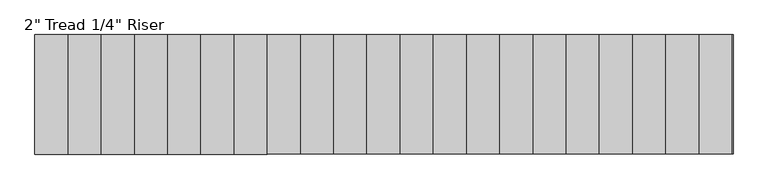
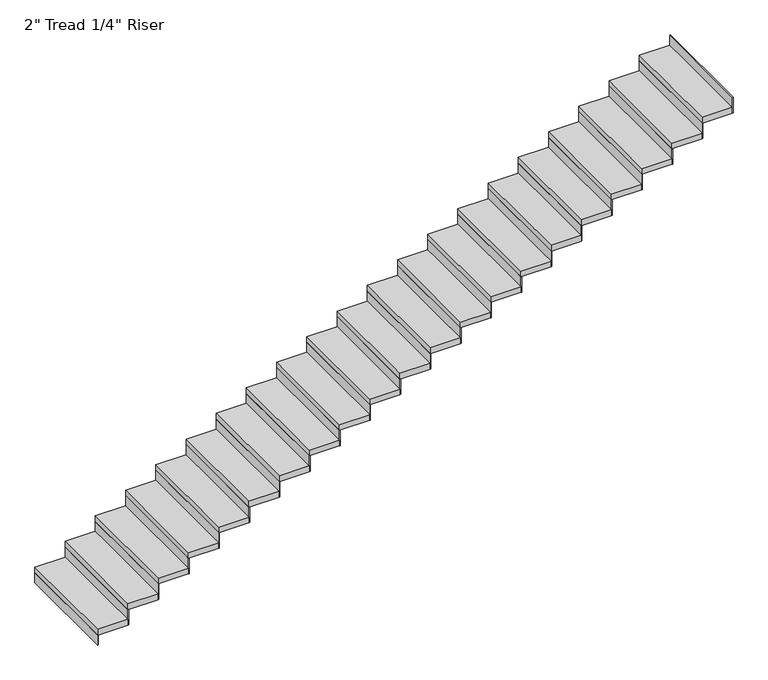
"""IFC4 building model written with IfcOpenShell, lengths in millimetres: stair flight geometry."""

from ifc_helpers import new_model, si_unit, frame, origin, origin_with_axes, place, context, project, spatial, polyline, outline, extrude, source, transform, mapped, element, save


def stair_flight_2194d3fa(model_context):
    return source(origin(), model_context, "Body", "SweptSolid", [
        extrude(outline(polyline([(60465.2405484, 52176.6739583), (60458.8905484, 52176.6739583), (60458.8905484, 53091.0739583), (60465.2405484, 53091.0739583), (60465.2405484, 52176.6739583)])), origin_with_axes(), (0.0, 0.0, 1.0), 87.7454545),
        extrude(outline(polyline([(60712.8905484, 53091.0739583), (60712.8905484, 52176.6739583), (60458.8905484, 52176.6739583), (60458.8905484, 53091.0739583), (60712.8905484, 53091.0739583)])), frame((0.0, 0.0, 87.7454545), z_axis=(0.0, 0.0, 1.0), x_axis=(1.0, 0.0, 0.0)), (0.0, 0.0, 1.0), 50.8),
        extrude(outline(polyline([(60719.2405484, 52176.6739583), (60712.8905484, 52176.6739583), (60712.8905484, 53091.0739583), (60719.2405484, 53091.0739583), (60719.2405484, 52176.6739583)])), frame((0.0, 0.0, 87.7454545), z_axis=(0.0, 0.0, 1.0), x_axis=(1.0, 0.0, 0.0)), (0.0, 0.0, 1.0), 138.5454545),
        extrude(outline(polyline([(60966.8905484, 53091.0739583), (60966.8905484, 52176.6739583), (60712.8905484, 52176.6739583), (60712.8905484, 53091.0739583), (60966.8905484, 53091.0739583)])), frame((0.0, 0.0, 226.2909091), z_axis=(0.0, 0.0, 1.0), x_axis=(1.0, 0.0, 0.0)), (0.0, 0.0, 1.0), 50.8),
        extrude(outline(polyline([(60973.2405484, 52176.6739583), (60966.8905484, 52176.6739583), (60966.8905484, 53091.0739583), (60973.2405484, 53091.0739583), (60973.2405484, 52176.6739583)])), frame((0.0, 0.0, 226.2909091), z_axis=(0.0, 0.0, 1.0), x_axis=(1.0, 0.0, 0.0)), (0.0, 0.0, 1.0), 138.5454545),
        extrude(outline(polyline([(61220.8905484, 53091.0739583), (61220.8905484, 52176.6739583), (60966.8905484, 52176.6739583), (60966.8905484, 53091.0739583), (61220.8905484, 53091.0739583)])), frame((0.0, 0.0, 364.8363636), z_axis=(0.0, 0.0, 1.0), x_axis=(1.0, 0.0, 0.0)), (0.0, 0.0, 1.0), 50.8),
        extrude(outline(polyline([(61227.2405484, 52176.6739583), (61220.8905484, 52176.6739583), (61220.8905484, 53091.0739583), (61227.2405484, 53091.0739583), (61227.2405484, 52176.6739583)])), frame((0.0, 0.0, 364.8363636), z_axis=(0.0, 0.0, 1.0), x_axis=(1.0, 0.0, 0.0)), (0.0, 0.0, 1.0), 138.5454545),
        extrude(outline(polyline([(61474.8905484, 53091.0739583), (61474.8905484, 52176.6739583), (61220.8905484, 52176.6739583), (61220.8905484, 53091.0739583), (61474.8905484, 53091.0739583)])), frame((0.0, 0.0, 503.3818182), z_axis=(0.0, 0.0, 1.0), x_axis=(1.0, 0.0, 0.0)), (0.0, 0.0, 1.0), 50.8),
        extrude(outline(polyline([(61481.2405484, 52176.6739583), (61474.8905484, 52176.6739583), (61474.8905484, 53091.0739583), (61481.2405484, 53091.0739583), (61481.2405484, 52176.6739583)])), frame((0.0, 0.0, 503.3818182), z_axis=(0.0, 0.0, 1.0), x_axis=(1.0, 0.0, 0.0)), (0.0, 0.0, 1.0), 138.5454545),
        extrude(outline(polyline([(61728.8905484, 53091.0739583), (61728.8905484, 52176.6739583), (61474.8905484, 52176.6739583), (61474.8905484, 53091.0739583), (61728.8905484, 53091.0739583)])), frame((0.0, 0.0, 641.9272727), z_axis=(0.0, 0.0, 1.0), x_axis=(1.0, 0.0, 0.0)), (0.0, 0.0, 1.0), 50.8),
        extrude(outline(polyline([(61735.2405484, 52176.6739583), (61728.8905484, 52176.6739583), (61728.8905484, 53091.0739583), (61735.2405484, 53091.0739583), (61735.2405484, 52176.6739583)])), frame((0.0, 0.0, 641.9272727), z_axis=(0.0, 0.0, 1.0), x_axis=(1.0, 0.0, 0.0)), (0.0, 0.0, 1.0), 138.5454545),
        extrude(outline(polyline([(61982.8905484, 53091.0739583), (61982.8905484, 52176.6739583), (61728.8905484, 52176.6739583), (61728.8905484, 53091.0739583), (61982.8905484, 53091.0739583)])), frame((0.0, 0.0, 780.4727273), z_axis=(0.0, 0.0, 1.0), x_axis=(1.0, 0.0, 0.0)), (0.0, 0.0, 1.0), 50.8),
        extrude(outline(polyline([(61989.2405484, 52176.6739583), (61982.8905484, 52176.6739583), (61982.8905484, 53091.0739583), (61989.2405484, 53091.0739583), (61989.2405484, 52176.6739583)])), frame((0.0, 0.0, 780.4727273), z_axis=(0.0, 0.0, 1.0), x_axis=(1.0, 0.0, 0.0)), (0.0, 0.0, 1.0), 138.5454545),
        extrude(outline(polyline([(62236.8905484, 53091.0739583), (62236.8905484, 52176.6739583), (61982.8905484, 52176.6739583), (61982.8905484, 53091.0739583), (62236.8905484, 53091.0739583)])), frame((0.0, 0.0, 919.0181818), z_axis=(0.0, 0.0, 1.0), x_axis=(1.0, 0.0, 0.0)), (0.0, 0.0, 1.0), 50.8),
        extrude(outline(polyline([(62243.2405484, 52176.6739583), (62236.8905484, 52176.6739583), (62236.8905484, 53091.0739583), (62243.2405484, 53091.0739583), (62243.2405484, 52176.6739583)])), frame((0.0, 0.0, 919.0181818), z_axis=(0.0, 0.0, 1.0), x_axis=(1.0, 0.0, 0.0)), (0.0, 0.0, 1.0), 138.5454545),
        extrude(outline(polyline([(62490.8905484, 53091.0739583), (62490.8905484, 52176.6739583), (62236.8905484, 52176.6739583), (62236.8905484, 53091.0739583), (62490.8905484, 53091.0739583)])), frame((0.0, 0.0, 1057.5636364), z_axis=(0.0, 0.0, 1.0), x_axis=(1.0, 0.0, 0.0)), (0.0, 0.0, 1.0), 50.8),
        extrude(outline(polyline([(62497.2405484, 52176.6739583), (62490.8905484, 52176.6739583), (62490.8905484, 53091.0739583), (62497.2405484, 53091.0739583), (62497.2405484, 52176.6739583)])), frame((0.0, 0.0, 1057.5636364), z_axis=(0.0, 0.0, 1.0), x_axis=(1.0, 0.0, 0.0)), (0.0, 0.0, 1.0), 138.5454545),
        extrude(outline(polyline([(62744.8905484, 53091.0739583), (62744.8905484, 52176.6739583), (62490.8905484, 52176.6739583), (62490.8905484, 53091.0739583), (62744.8905484, 53091.0739583)])), frame((0.0, 0.0, 1196.1090909), z_axis=(0.0, 0.0, 1.0), x_axis=(1.0, 0.0, 0.0)), (0.0, 0.0, 1.0), 50.8),
        extrude(outline(polyline([(62751.2405484, 52176.6739583), (62744.8905484, 52176.6739583), (62744.8905484, 53091.0739583), (62751.2405484, 53091.0739583), (62751.2405484, 52176.6739583)])), frame((0.0, 0.0, 1196.1090909), z_axis=(0.0, 0.0, 1.0), x_axis=(1.0, 0.0, 0.0)), (0.0, 0.0, 1.0), 138.5454545),
        extrude(outline(polyline([(62998.8905484, 53091.0739583), (62998.8905484, 52176.6739583), (62744.8905484, 52176.6739583), (62744.8905484, 53091.0739583), (62998.8905484, 53091.0739583)])), frame((0.0, 0.0, 1334.6545455), z_axis=(0.0, 0.0, 1.0), x_axis=(1.0, 0.0, 0.0)), (0.0, 0.0, 1.0), 50.8),
        extrude(outline(polyline([(63005.2405484, 52176.6739583), (62998.8905484, 52176.6739583), (62998.8905484, 53091.0739583), (63005.2405484, 53091.0739583), (63005.2405484, 52176.6739583)])), frame((0.0, 0.0, 1334.6545455), z_axis=(0.0, 0.0, 1.0), x_axis=(1.0, 0.0, 0.0)), (0.0, 0.0, 1.0), 138.5454545),
        extrude(outline(polyline([(63252.8905484, 53091.0739583), (63252.8905484, 52176.6739583), (62998.8905484, 52176.6739583), (62998.8905484, 53091.0739583), (63252.8905484, 53091.0739583)])), frame((0.0, 0.0, 1473.2), z_axis=(0.0, 0.0, 1.0), x_axis=(1.0, 0.0, 0.0)), (0.0, 0.0, 1.0), 50.8),
        extrude(outline(polyline([(63259.2405484, 52176.6739583), (63252.8905484, 52176.6739583), (63252.8905484, 53091.0739583), (63259.2405484, 53091.0739583), (63259.2405484, 52176.6739583)])), frame((0.0, 0.0, 1473.2), z_axis=(0.0, 0.0, 1.0), x_axis=(1.0, 0.0, 0.0)), (0.0, 0.0, 1.0), 138.5454545),
        extrude(outline(polyline([(63506.8905484, 53091.0739583), (63506.8905484, 52176.6739583), (63252.8905484, 52176.6739583), (63252.8905484, 53091.0739583), (63506.8905484, 53091.0739583)])), frame((0.0, 0.0, 1611.7454545), z_axis=(0.0, 0.0, 1.0), x_axis=(1.0, 0.0, 0.0)), (0.0, 0.0, 1.0), 50.8),
        extrude(outline(polyline([(63513.2405484, 52176.6739583), (63506.8905484, 52176.6739583), (63506.8905484, 53091.0739583), (63513.2405484, 53091.0739583), (63513.2405484, 52176.6739583)])), frame((0.0, 0.0, 1611.7454545), z_axis=(0.0, 0.0, 1.0), x_axis=(1.0, 0.0, 0.0)), (0.0, 0.0, 1.0), 138.5454545),
        extrude(outline(polyline([(63760.8905484, 53091.0739583), (63760.8905484, 52176.6739583), (63506.8905484, 52176.6739583), (63506.8905484, 53091.0739583), (63760.8905484, 53091.0739583)])), frame((0.0, 0.0, 1750.2909091), z_axis=(0.0, 0.0, 1.0), x_axis=(1.0, 0.0, 0.0)), (0.0, 0.0, 1.0), 50.8),
        extrude(outline(polyline([(63767.2405484, 52176.6739583), (63760.8905484, 52176.6739583), (63760.8905484, 53091.0739583), (63767.2405484, 53091.0739583), (63767.2405484, 52176.6739583)])), frame((0.0, 0.0, 1750.2909091), z_axis=(0.0, 0.0, 1.0), x_axis=(1.0, 0.0, 0.0)), (0.0, 0.0, 1.0), 138.5454545),
        extrude(outline(polyline([(64014.8905484, 53091.0739583), (64014.8905484, 52176.6739583), (63760.8905484, 52176.6739583), (63760.8905484, 53091.0739583), (64014.8905484, 53091.0739583)])), frame((0.0, 0.0, 1888.8363636), z_axis=(0.0, 0.0, 1.0), x_axis=(1.0, 0.0, 0.0)), (0.0, 0.0, 1.0), 50.8),
        extrude(outline(polyline([(64021.2405484, 52176.6739583), (64014.8905484, 52176.6739583), (64014.8905484, 53091.0739583), (64021.2405484, 53091.0739583), (64021.2405484, 52176.6739583)])), frame((0.0, 0.0, 1888.8363636), z_axis=(0.0, 0.0, 1.0), x_axis=(1.0, 0.0, 0.0)), (0.0, 0.0, 1.0), 138.5454545),
        extrude(outline(polyline([(64268.8905484, 53091.0739583), (64268.8905484, 52176.6739583), (64014.8905484, 52176.6739583), (64014.8905484, 53091.0739583), (64268.8905484, 53091.0739583)])), frame((0.0, 0.0, 2027.3818182), z_axis=(0.0, 0.0, 1.0), x_axis=(1.0, 0.0, 0.0)), (0.0, 0.0, 1.0), 50.8),
        extrude(outline(polyline([(64275.2405484, 52176.6739583), (64268.8905484, 52176.6739583), (64268.8905484, 53091.0739583), (64275.2405484, 53091.0739583), (64275.2405484, 52176.6739583)])), frame((0.0, 0.0, 2027.3818182), z_axis=(0.0, 0.0, 1.0), x_axis=(1.0, 0.0, 0.0)), (0.0, 0.0, 1.0), 138.5454545),
        extrude(outline(polyline([(64522.8905484, 53091.0739583), (64522.8905484, 52176.6739583), (64268.8905484, 52176.6739583), (64268.8905484, 53091.0739583), (64522.8905484, 53091.0739583)])), frame((0.0, 0.0, 2165.9272727), z_axis=(0.0, 0.0, 1.0), x_axis=(1.0, 0.0, 0.0)), (0.0, 0.0, 1.0), 50.8),
        extrude(outline(polyline([(64529.2405484, 52176.6739583), (64522.8905484, 52176.6739583), (64522.8905484, 53091.0739583), (64529.2405484, 53091.0739583), (64529.2405484, 52176.6739583)])), frame((0.0, 0.0, 2165.9272727), z_axis=(0.0, 0.0, 1.0), x_axis=(1.0, 0.0, 0.0)), (0.0, 0.0, 1.0), 138.5454545),
        extrude(outline(polyline([(64776.8905484, 53091.0739583), (64776.8905484, 52176.6739583), (64522.8905484, 52176.6739583), (64522.8905484, 53091.0739583), (64776.8905484, 53091.0739583)])), frame((0.0, 0.0, 2304.4727273), z_axis=(0.0, 0.0, 1.0), x_axis=(1.0, 0.0, 0.0)), (0.0, 0.0, 1.0), 50.8),
        extrude(outline(polyline([(64783.2405484, 52176.6739583), (64776.8905484, 52176.6739583), (64776.8905484, 53091.0739583), (64783.2405484, 53091.0739583), (64783.2405484, 52176.6739583)])), frame((0.0, 0.0, 2304.4727273), z_axis=(0.0, 0.0, 1.0), x_axis=(1.0, 0.0, 0.0)), (0.0, 0.0, 1.0), 138.5454545),
        extrude(outline(polyline([(65030.8905484, 53091.0739583), (65030.8905484, 52176.6739583), (64776.8905484, 52176.6739583), (64776.8905484, 53091.0739583), (65030.8905484, 53091.0739583)])), frame((0.0, 0.0, 2443.0181818), z_axis=(0.0, 0.0, 1.0), x_axis=(1.0, 0.0, 0.0)), (0.0, 0.0, 1.0), 50.8),
        extrude(outline(polyline([(65037.2405484, 52176.6739583), (65030.8905484, 52176.6739583), (65030.8905484, 53091.0739583), (65037.2405484, 53091.0739583), (65037.2405484, 52176.6739583)])), frame((0.0, 0.0, 2443.0181818), z_axis=(0.0, 0.0, 1.0), x_axis=(1.0, 0.0, 0.0)), (0.0, 0.0, 1.0), 138.5454545),
        extrude(outline(polyline([(65284.8905484, 53091.0739583), (65284.8905484, 52176.6739583), (65030.8905484, 52176.6739583), (65030.8905484, 53091.0739583), (65284.8905484, 53091.0739583)])), frame((0.0, 0.0, 2581.5636364), z_axis=(0.0, 0.0, 1.0), x_axis=(1.0, 0.0, 0.0)), (0.0, 0.0, 1.0), 50.8),
        extrude(outline(polyline([(65291.2405484, 52176.6739583), (65284.8905484, 52176.6739583), (65284.8905484, 53091.0739583), (65291.2405484, 53091.0739583), (65291.2405484, 52176.6739583)])), frame((0.0, 0.0, 2581.5636364), z_axis=(0.0, 0.0, 1.0), x_axis=(1.0, 0.0, 0.0)), (0.0, 0.0, 1.0), 138.5454545),
        extrude(outline(polyline([(65538.8905484, 53091.0739583), (65538.8905484, 52176.6739583), (65284.8905484, 52176.6739583), (65284.8905484, 53091.0739583), (65538.8905484, 53091.0739583)])), frame((0.0, 0.0, 2720.1090909), z_axis=(0.0, 0.0, 1.0), x_axis=(1.0, 0.0, 0.0)), (0.0, 0.0, 1.0), 50.8),
        extrude(outline(polyline([(65545.2405484, 52176.6739583), (65538.8905484, 52176.6739583), (65538.8905484, 53091.0739583), (65545.2405484, 53091.0739583), (65545.2405484, 52176.6739583)])), frame((0.0, 0.0, 2720.1090909), z_axis=(0.0, 0.0, 1.0), x_axis=(1.0, 0.0, 0.0)), (0.0, 0.0, 1.0), 138.5454545),
        extrude(outline(polyline([(65799.2405484, 52176.6739583), (65792.8905484, 52176.6739583), (65792.8905484, 53091.0739583), (65799.2405484, 53091.0739583), (65799.2405484, 52176.6739583)])), frame((0.0, 0.0, 2858.6545455), z_axis=(0.0, 0.0, 1.0), x_axis=(1.0, 0.0, 0.0)), (0.0, 0.0, 1.0), 138.5454545),
        extrude(outline(polyline([(65792.8905484, 53091.0739583), (65792.8905484, 52176.6739583), (65538.8905484, 52176.6739583), (65538.8905484, 53091.0739583), (65792.8905484, 53091.0739583)])), frame((0.0, 0.0, 2858.6545455), z_axis=(0.0, 0.0, 1.0), x_axis=(1.0, 0.0, 0.0)), (0.0, 0.0, 1.0), 50.8),
    ])


if __name__ == "__main__":
    model = new_model("IFC4")
    model_context = context("Model", 3, world=origin())
    ifc_project = project(units=[si_unit("LENGTHUNIT", "METRE", prefix="MILLI")], contexts=[model_context])
    site = spatial("IfcSite", under=ifc_project)
    building = spatial("IfcBuilding", under=site)
    placement = place(None, origin())
    stair_flight_shape = stair_flight_2194d3fa(model_context)
    element("IfcStairFlight", 1, ObjectType="2\" Tread 1/4\" Riser", at=placement, inside=building, context=model_context, shape_type="MappedRepresentation", body=[
        mapped(stair_flight_shape, transform((0.0, 0.0, 0.0), x_axis=(1.0, 0.0, 0.0), y_axis=(0.0, 1.0, 0.0), z_axis=(0.0, 0.0, 1.0))),
    ])
    save(model, "model.ifc")
